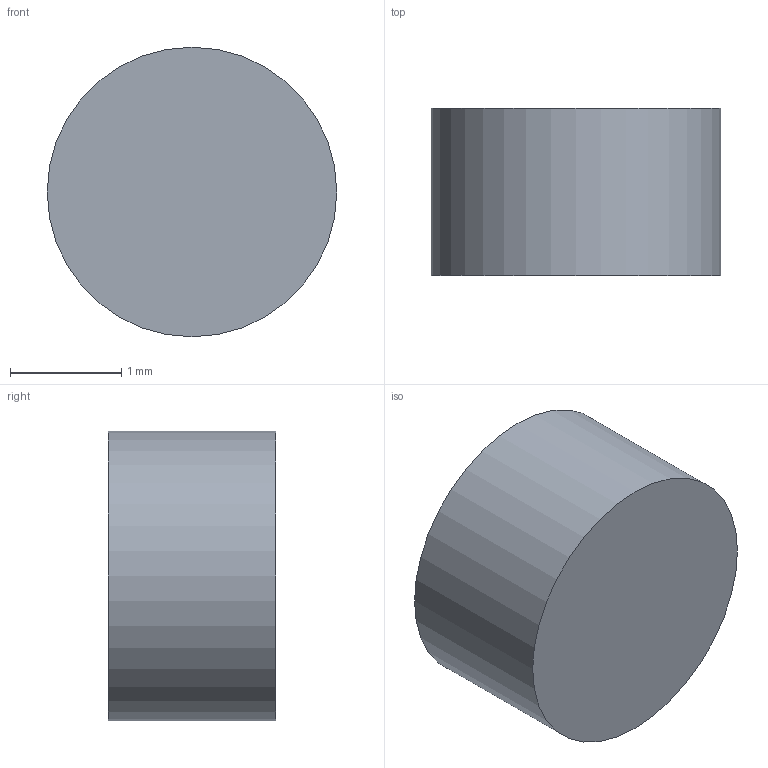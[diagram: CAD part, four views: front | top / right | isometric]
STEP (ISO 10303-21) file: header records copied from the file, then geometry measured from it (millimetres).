
FILE_DESCRIPTION(('FreeCAD Model'),'2;1');
FILE_NAME('Open CASCADE Shape Model','2026-11-17T15:16:24',('FreeCAD'),( 'FreeCAD'),'Open CASCADE STEP processor 7.8','FreeCAD','Unknown');
FILE_SCHEMA(('AUTOMOTIVE_DESIGN { 1 0 10303 214 1 1 1 1 }'));
Length unit declared in the file: millimetre
Products named in the file (1): Open CASCADE STEP translator 7.8 15
Bounding box: 2.6 x 1.5 x 2.6 mm (x, y, z)
Volume: 8 mm3; surface area: 22.9 mm2
Topology: 1 solids, 1 shells, 3 faces, 3 edges, 2 vertices
Faces by surface type: plane 2, cylinder 1
Full cylindrical faces by diameter (mm): 2.6 x1
Entity records: 69 total; most frequent: DIRECTION 13, CARTESIAN_POINT 9, AXIS2_PLACEMENT_3D 6, ORIENTED_EDGE 6, ADVANCED_FACE 3, FACE_BOUND 3, EDGE_LOOP 3, EDGE_CURVE 3
